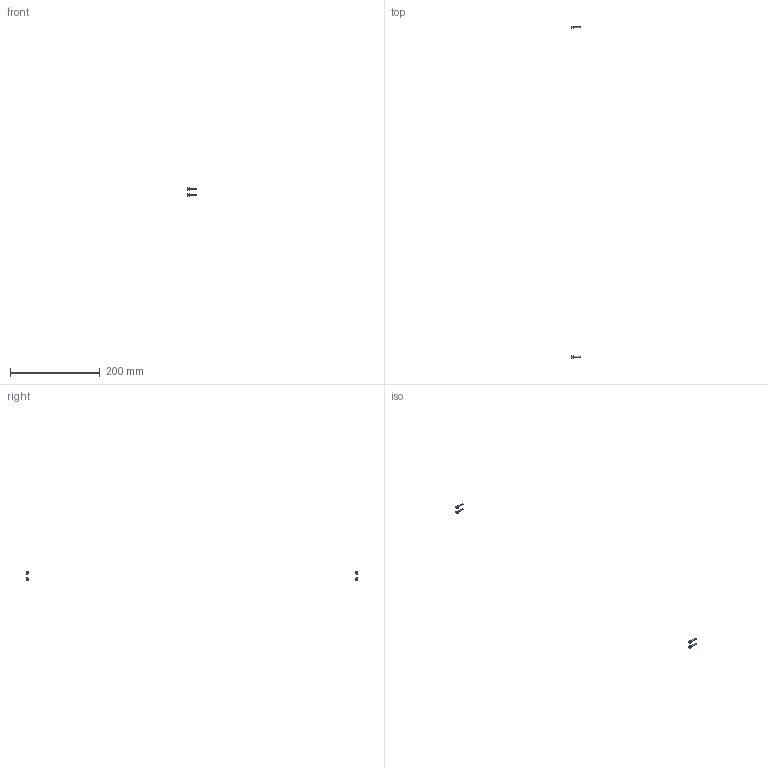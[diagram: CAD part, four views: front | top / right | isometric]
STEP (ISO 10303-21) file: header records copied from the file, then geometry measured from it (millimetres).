
FILE_DESCRIPTION(/* description */ (''),/* implementation_level */ '2;1');
FILE_NAME(/* name */ 'Y-7D92~1',/* time_stamp */ '2014-02-14T19:38:38+01:00',/* author */ (''),/* organization */ (''),/* preprocessor_version */ 'ST-DEVELOPER v14',/* originating_system */ '',/* authorisation */ '');
FILE_SCHEMA (('AUTOMOTIVE_DESIGN'));
Length unit declared in the file: millimetre
Products named in the file (2): Document; screw DIN912-like, M3x16
Assembly tree (2 placements, depth 2):
  Document
    screw DIN912-like, M3x16  x2
Bounding box: 19 x 741.57 x 19.5 mm (x, y, z)
Volume: 698.9 mm3; surface area: 1034.2 mm2
Topology: 4 solids, 4 shells, 100 faces, 224 edges, 132 vertices
Faces by surface type: plane 60, bspline 40
Entity records: 4125 total; most frequent: CARTESIAN_POINT 1889, B_SPLINE_CURVE_WITH_KNOTS 378, ORIENTED_EDGE 324, PCURVE 324, DEFINITIONAL_REPRESENTATION 324, SURFACE_CURVE 162, EDGE_CURVE 162, VERTEX_POINT 99
